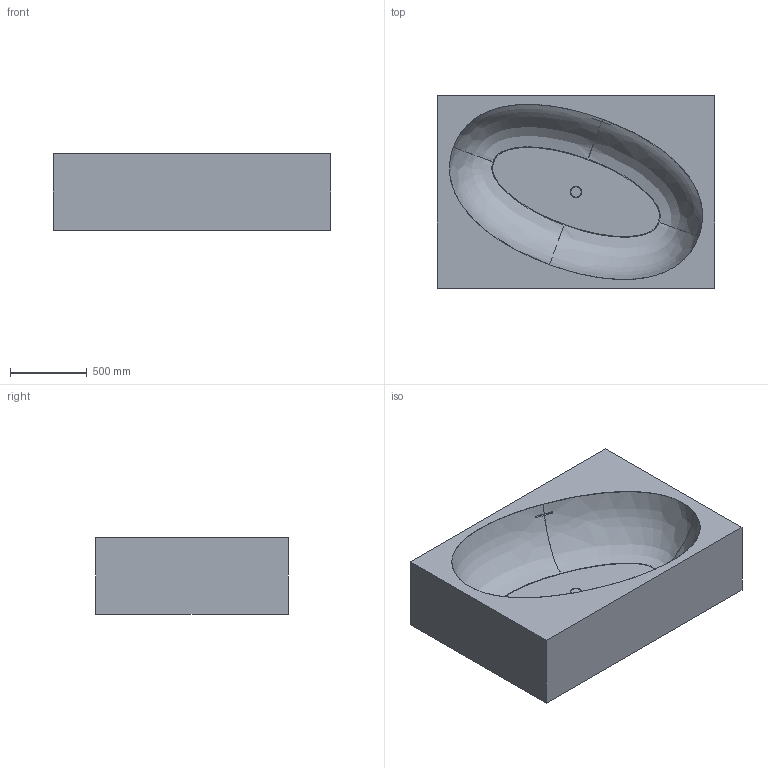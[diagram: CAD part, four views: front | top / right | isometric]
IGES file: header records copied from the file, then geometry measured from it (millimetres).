
Global section: file name: D:\Desktop\GIOVANNI\SCHEDE PRODOTTO\VASCHE\VASCHE FREESTANDING\ELISLAND_ da sistemare\3D\ELISLAND 20; native system: Rhinoceros ( Jan 17 2018 ); preprocessor: Trout Lake IGES 012 Jan 17 2018; date: 230531.095100; units: millimetre
Bounding box: 1800 x 1250 x 500 mm (x, y, z)
Surface area: 8473003.2 mm2 (no closed solid volume)
Topology: 0 solids, 0 shells, 22 faces, 569 edges, 571 vertices
Faces by surface type: bspline 22
